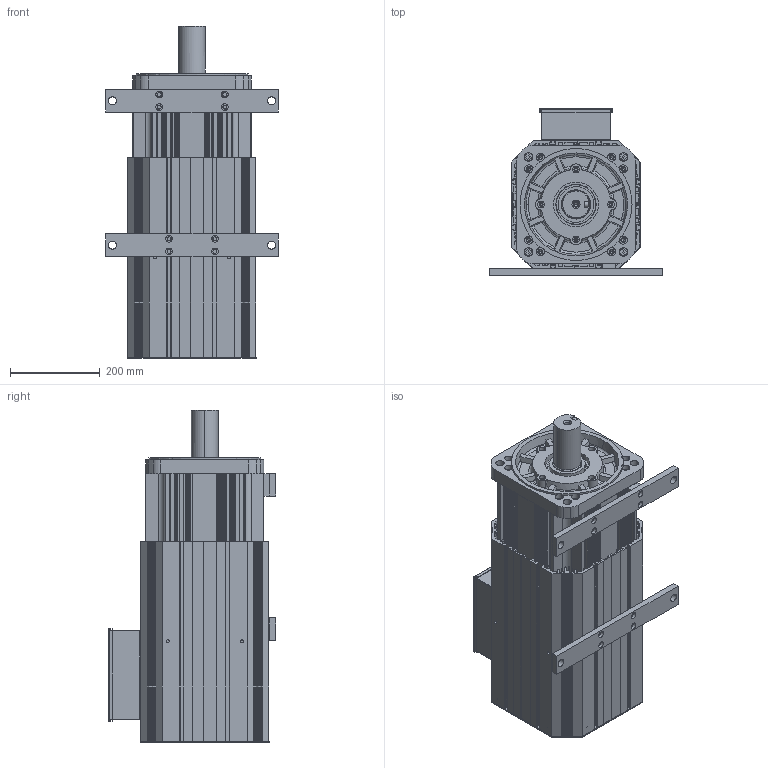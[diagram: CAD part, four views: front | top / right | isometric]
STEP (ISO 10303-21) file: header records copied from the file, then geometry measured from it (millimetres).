
FILE_DESCRIPTION (( 'STEP AP203' ), '1' );
FILE_NAME ('ZE2505.STEP', '2024-10-18T02:49:38', ( 'MicroSoft' ), ( 'MicroSoft' ), 'SwSTEP 2.0', 'SolidWorks 2020', '' );
FILE_SCHEMA (( 'CONFIG_CONTROL_DESIGN' ));
Length unit declared in the file: millimetre
Products named in the file (23): Z25-01-02(25前法兰); 25諉盄碟郪璃; 25す瑩ㄗ14-9-91ㄘ; Z25-01-23（25接线盒焊接）; Z25-01-01(25儂褲)_2507; Z25-01-13（25风扇固定片）; GB／T276-94深沟球轴承6313-2Z; Z25-01-24（25接线盒盖板）; Z25-01-09(25电机前轴承挡圈); Z25-01-18（前轴承压盖）; Z25-01-04(25全系电机轴-旋变)_2507; ZE2505; Z25-01-26（25导轨条）; Z25-01-10(25炵蹈絳瑞啣A)_7-8耀; Z25-01-25（25接线盒密封垫）; Z25-01-07(25萇儂綴菁褐盓殤) ; Z25-01-03(25綴楊擘); Z25-01-11(25炵蹈絳瑞啣B)_7-8耀; Z25-01-27（25端子固定片）; Z25-01-28(晤鎢ん綴欶褲); Z25-01-12(25炵蹈絳瑞啣C)_7-8耀; Z25-01-06(25萇儂ヶ菁褐盓殤); Z25-01-08(25电机底脚支架垫板)
Assembly tree (23 placements, depth 3):
  ZE2505
    Z25-01-02(25前法兰)
    Z25-01-01(25儂褲)_2507
    Z25-01-03(25綴楊擘)
    GB／T276-94深沟球轴承6313-2Z
    Z25-01-06(25萇儂ヶ菁褐盓殤)
    Z25-01-07(25萇儂綴菁褐盓殤) 
    Z25-01-08(25电机底脚支架垫板)
    Z25-01-09(25电机前轴承挡圈)
    25す瑩ㄗ14-9-91ㄘ
    Z25-01-13（25风扇固定片）
    Z25-01-18（前轴承压盖）
    Z25-01-28(晤鎢ん綴欶褲)
    25諉盄碟郪璃
      Z25-01-23（25接线盒焊接）
      Z25-01-26（25导轨条）
      Z25-01-27（25端子固定片）
      Z25-01-24（25接线盒盖板）
      Z25-01-25（25接线盒密封垫）
    Z25-01-04(25全系电机轴-旋变)_2507
    Z25-01-10(25炵蹈絳瑞啣A)_7-8耀
    Z25-01-11(25炵蹈絳瑞啣B)_7-8耀
    Z25-01-12(25炵蹈絳瑞啣C)_7-8耀  x2
Bounding box: 384 x 372.9 x 741 mm (x, y, z)
Volume: 14480865.9 mm3; surface area: 4193483.4 mm2
Topology: 23 solids, 23 shells, 3118 faces, 8633 edges, 5550 vertices
Faces by surface type: cylinder 1422, plane 1178, cone 195, sphere 118, torus 107, bspline 98
Entity records: 103119 total; most frequent: CARTESIAN_POINT 26778, DIRECTION 15808, ORIENTED_EDGE 15582, EDGE_CURVE 7791, AXIS2_PLACEMENT_3D 5874, VERTEX_POINT 5032, VECTOR 4060, LINE 4060
